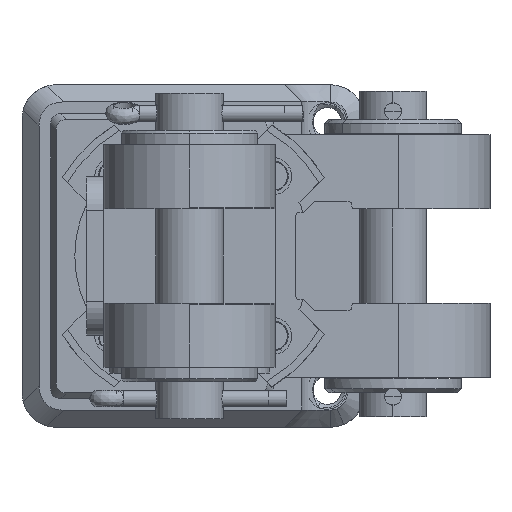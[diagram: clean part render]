
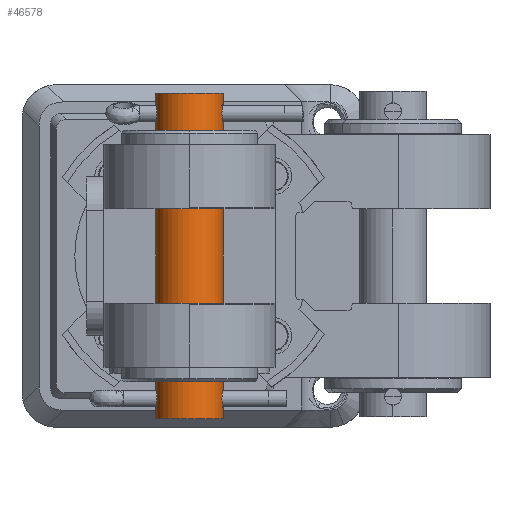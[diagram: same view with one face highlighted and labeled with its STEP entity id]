
A CAD part, left-side view. The second image highlights one B-rep face of the part: STEP entity #46578.
In plain terms, the highlighted cylindrical face has radius 5.9 mm (diameter 11.8 mm), a partial arc.
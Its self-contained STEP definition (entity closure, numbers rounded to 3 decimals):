
#46429=CARTESIAN_POINT('Axis2P3D Location',(0.,-28.5,-174.058)) ;
#46433=CARTESIAN_POINT('Vertex',(5.9,-28.5,-174.058)) ;
#46435=CARTESIAN_POINT('Vertex',(-5.9,-28.5,-174.058)) ;
#46448=CARTESIAN_POINT('Axis2P3D Location',(0.,0.,-174.058)) ;
#46453=CARTESIAN_POINT('Line Origine',(5.9,0.,-174.058)) ;
#46457=CARTESIAN_POINT('Vertex',(5.9,-23.5,-174.058)) ;
#46459=CARTESIAN_POINT('Vertex',(5.9,23.5,-174.058)) ;
#46463=CARTESIAN_POINT('Control Point',(5.9,-26.5,-174.058)) ;
#46464=CARTESIAN_POINT('Control Point',(5.9,-26.5,-174.236)) ;
#46465=CARTESIAN_POINT('Control Point',(5.893,-26.474,-174.414)) ;
#46466=CARTESIAN_POINT('Control Point',(5.88,-26.421,-174.586)) ;
#46467=CARTESIAN_POINT('Control Point',(5.824,-26.188,-175.072)) ;
#46468=CARTESIAN_POINT('Control Point',(5.745,-25.762,-175.424)) ;
#46469=CARTESIAN_POINT('Control Point',(5.702,-25.412,-175.569)) ;
#46470=CARTESIAN_POINT('Control Point',(5.688,-24.612,-175.633)) ;
#46471=CARTESIAN_POINT('Control Point',(5.791,-23.918,-175.22)) ;
#46472=CARTESIAN_POINT('Control Point',(5.864,-23.641,-174.879)) ;
#46473=CARTESIAN_POINT('Control Point',(5.9,-23.5,-174.468)) ;
#46474=CARTESIAN_POINT('Control Point',(5.9,-23.5,-174.058)) ;
#46475=CARTESIAN_POINT('Vertex',(5.9,-26.5,-174.058)) ;
#46478=CARTESIAN_POINT('Line Origine',(5.9,0.,-174.058)) ;
#46483=CARTESIAN_POINT('Line Origine',(-5.9,0.,-174.058)) ;
#46487=CARTESIAN_POINT('Vertex',(-5.9,-26.5,-174.058)) ;
#46491=CARTESIAN_POINT('Control Point',(-5.9,-26.5,-174.058)) ;
#46492=CARTESIAN_POINT('Control Point',(-5.9,-26.5,-174.236)) ;
#46493=CARTESIAN_POINT('Control Point',(-5.893,-26.474,-174.414)) ;
#46494=CARTESIAN_POINT('Control Point',(-5.88,-26.421,-174.586)) ;
#46495=CARTESIAN_POINT('Control Point',(-5.824,-26.188,-175.072)) ;
#46496=CARTESIAN_POINT('Control Point',(-5.745,-25.762,-175.424)) ;
#46497=CARTESIAN_POINT('Control Point',(-5.702,-25.412,-175.569)) ;
#46498=CARTESIAN_POINT('Control Point',(-5.688,-24.612,-175.633)) ;
#46499=CARTESIAN_POINT('Control Point',(-5.791,-23.918,-175.22)) ;
#46500=CARTESIAN_POINT('Control Point',(-5.864,-23.641,-174.879)) ;
#46501=CARTESIAN_POINT('Control Point',(-5.9,-23.5,-174.468)) ;
#46502=CARTESIAN_POINT('Control Point',(-5.9,-23.5,-174.058)) ;
#46503=CARTESIAN_POINT('Vertex',(-5.9,-23.5,-174.058)) ;
#46506=CARTESIAN_POINT('Line Origine',(-5.9,0.,-174.058)) ;
#46510=CARTESIAN_POINT('Vertex',(-5.9,23.5,-174.058)) ;
#46514=CARTESIAN_POINT('Control Point',(-5.9,23.5,-174.058)) ;
#46515=CARTESIAN_POINT('Control Point',(-5.9,23.5,-174.236)) ;
#46516=CARTESIAN_POINT('Control Point',(-5.893,23.526,-174.414)) ;
#46517=CARTESIAN_POINT('Control Point',(-5.88,23.579,-174.586)) ;
#46518=CARTESIAN_POINT('Control Point',(-5.824,23.812,-175.072)) ;
#46519=CARTESIAN_POINT('Control Point',(-5.745,24.238,-175.424)) ;
#46520=CARTESIAN_POINT('Control Point',(-5.702,24.588,-175.569)) ;
#46521=CARTESIAN_POINT('Control Point',(-5.688,25.388,-175.633)) ;
#46522=CARTESIAN_POINT('Control Point',(-5.791,26.082,-175.22)) ;
#46523=CARTESIAN_POINT('Control Point',(-5.864,26.359,-174.879)) ;
#46524=CARTESIAN_POINT('Control Point',(-5.9,26.5,-174.468)) ;
#46525=CARTESIAN_POINT('Control Point',(-5.9,26.5,-174.058)) ;
#46526=CARTESIAN_POINT('Vertex',(-5.9,26.5,-174.058)) ;
#46529=CARTESIAN_POINT('Line Origine',(-5.9,0.,-174.058)) ;
#46533=CARTESIAN_POINT('Vertex',(-5.9,28.5,-174.058)) ;
#46536=CARTESIAN_POINT('Axis2P3D Location',(0.,28.5,-174.058)) ;
#46540=CARTESIAN_POINT('Vertex',(5.9,28.5,-174.058)) ;
#46543=CARTESIAN_POINT('Line Origine',(5.9,0.,-174.058)) ;
#46547=CARTESIAN_POINT('Vertex',(5.9,26.5,-174.058)) ;
#46551=CARTESIAN_POINT('Control Point',(5.9,23.5,-174.058)) ;
#46552=CARTESIAN_POINT('Control Point',(5.9,23.5,-174.236)) ;
#46553=CARTESIAN_POINT('Control Point',(5.893,23.526,-174.414)) ;
#46554=CARTESIAN_POINT('Control Point',(5.88,23.579,-174.586)) ;
#46555=CARTESIAN_POINT('Control Point',(5.824,23.812,-175.072)) ;
#46556=CARTESIAN_POINT('Control Point',(5.745,24.238,-175.424)) ;
#46557=CARTESIAN_POINT('Control Point',(5.702,24.588,-175.569)) ;
#46558=CARTESIAN_POINT('Control Point',(5.688,25.388,-175.633)) ;
#46559=CARTESIAN_POINT('Control Point',(5.791,26.082,-175.22)) ;
#46560=CARTESIAN_POINT('Control Point',(5.864,26.359,-174.879)) ;
#46561=CARTESIAN_POINT('Control Point',(5.9,26.5,-174.468)) ;
#46562=CARTESIAN_POINT('Control Point',(5.9,26.5,-174.058)) ;
#46430=DIRECTION('Axis2P3D Direction',(0.,1.,-0.)) ;
#46449=DIRECTION('Axis2P3D Direction',(0.,1.,-0.)) ;
#46450=DIRECTION('Axis2P3D XDirection',(1.,0.,0.)) ;
#46454=DIRECTION('Vector Direction',(0.,1.,0.)) ;
#46479=DIRECTION('Vector Direction',(0.,1.,0.)) ;
#46484=DIRECTION('Vector Direction',(0.,1.,0.)) ;
#46507=DIRECTION('Vector Direction',(0.,1.,0.)) ;
#46530=DIRECTION('Vector Direction',(0.,1.,0.)) ;
#46537=DIRECTION('Axis2P3D Direction',(0.,1.,-0.)) ;
#46544=DIRECTION('Vector Direction',(0.,1.,0.)) ;
#46431=AXIS2_PLACEMENT_3D('Circle Axis2P3D',#46429,#46430,$) ;
#46451=AXIS2_PLACEMENT_3D('Cylinder Axis2P3D',#46448,#46449,#46450) ;
#46538=AXIS2_PLACEMENT_3D('Circle Axis2P3D',#46536,#46537,$) ;
#46565=ORIENTED_EDGE('',*,*,#46461,.F.) ;
#46566=ORIENTED_EDGE('',*,*,#46477,.F.) ;
#46567=ORIENTED_EDGE('',*,*,#46482,.F.) ;
#46568=ORIENTED_EDGE('',*,*,#46437,.T.) ;
#46569=ORIENTED_EDGE('',*,*,#46489,.T.) ;
#46570=ORIENTED_EDGE('',*,*,#46505,.T.) ;
#46571=ORIENTED_EDGE('',*,*,#46512,.T.) ;
#46572=ORIENTED_EDGE('',*,*,#46528,.T.) ;
#46573=ORIENTED_EDGE('',*,*,#46535,.T.) ;
#46574=ORIENTED_EDGE('',*,*,#46542,.F.) ;
#46575=ORIENTED_EDGE('',*,*,#46549,.F.) ;
#46576=ORIENTED_EDGE('',*,*,#46563,.F.) ;
#46455=VECTOR('Line Direction',#46454,1.) ;
#46480=VECTOR('Line Direction',#46479,1.) ;
#46485=VECTOR('Line Direction',#46484,1.) ;
#46508=VECTOR('Line Direction',#46507,1.) ;
#46531=VECTOR('Line Direction',#46530,1.) ;
#46545=VECTOR('Line Direction',#46544,1.) ;
#46578=ADVANCED_FACE('PartBody',(#46577),#46452,.T.) ;
#46462=B_SPLINE_CURVE_WITH_KNOTS('',5,(#46463,#46464,#46465,#46466,#46467,#46468,#46469,#46470,#46471,#46472,#46473,#46474),.UNSPECIFIED.,.F.,.U.,(6,3,3,6),(0.,1.281,3.852,6.807),.UNSPECIFIED.) ;
#46490=B_SPLINE_CURVE_WITH_KNOTS('',5,(#46491,#46492,#46493,#46494,#46495,#46496,#46497,#46498,#46499,#46500,#46501,#46502),.UNSPECIFIED.,.F.,.U.,(6,3,3,6),(0.,1.281,3.852,6.807),.UNSPECIFIED.) ;
#46513=B_SPLINE_CURVE_WITH_KNOTS('',5,(#46514,#46515,#46516,#46517,#46518,#46519,#46520,#46521,#46522,#46523,#46524,#46525),.UNSPECIFIED.,.F.,.U.,(6,3,3,6),(0.,1.281,3.852,6.807),.UNSPECIFIED.) ;
#46550=B_SPLINE_CURVE_WITH_KNOTS('',5,(#46551,#46552,#46553,#46554,#46555,#46556,#46557,#46558,#46559,#46560,#46561,#46562),.UNSPECIFIED.,.F.,.U.,(6,3,3,6),(0.,1.281,3.852,6.807),.UNSPECIFIED.) ;
#46432=CIRCLE('generated circle',#46431,5.9) ;
#46539=CIRCLE('generated circle',#46538,5.9) ;
#46452=CYLINDRICAL_SURFACE('generated cylinder',#46451,5.9) ;
#46437=EDGE_CURVE('',#46434,#46436,#46432,.T.) ;
#46461=EDGE_CURVE('',#46458,#46460,#46456,.T.) ;
#46477=EDGE_CURVE('',#46476,#46458,#46462,.T.) ;
#46482=EDGE_CURVE('',#46434,#46476,#46481,.T.) ;
#46489=EDGE_CURVE('',#46436,#46488,#46486,.T.) ;
#46505=EDGE_CURVE('',#46488,#46504,#46490,.T.) ;
#46512=EDGE_CURVE('',#46504,#46511,#46509,.T.) ;
#46528=EDGE_CURVE('',#46511,#46527,#46513,.T.) ;
#46535=EDGE_CURVE('',#46527,#46534,#46532,.T.) ;
#46542=EDGE_CURVE('',#46541,#46534,#46539,.T.) ;
#46549=EDGE_CURVE('',#46548,#46541,#46546,.T.) ;
#46563=EDGE_CURVE('',#46460,#46548,#46550,.T.) ;
#46564=EDGE_LOOP('',(#46565,#46566,#46567,#46568,#46569,#46570,#46571,#46572,#46573,#46574,#46575,#46576)) ;
#46577=FACE_OUTER_BOUND('',#46564,.T.) ;
#46456=LINE('Line',#46453,#46455) ;
#46481=LINE('Line',#46478,#46480) ;
#46486=LINE('Line',#46483,#46485) ;
#46509=LINE('Line',#46506,#46508) ;
#46532=LINE('Line',#46529,#46531) ;
#46546=LINE('Line',#46543,#46545) ;
#46434=VERTEX_POINT('',#46433) ;
#46436=VERTEX_POINT('',#46435) ;
#46458=VERTEX_POINT('',#46457) ;
#46460=VERTEX_POINT('',#46459) ;
#46476=VERTEX_POINT('',#46475) ;
#46488=VERTEX_POINT('',#46487) ;
#46504=VERTEX_POINT('',#46503) ;
#46511=VERTEX_POINT('',#46510) ;
#46527=VERTEX_POINT('',#46526) ;
#46534=VERTEX_POINT('',#46533) ;
#46541=VERTEX_POINT('',#46540) ;
#46548=VERTEX_POINT('',#46547) ;
